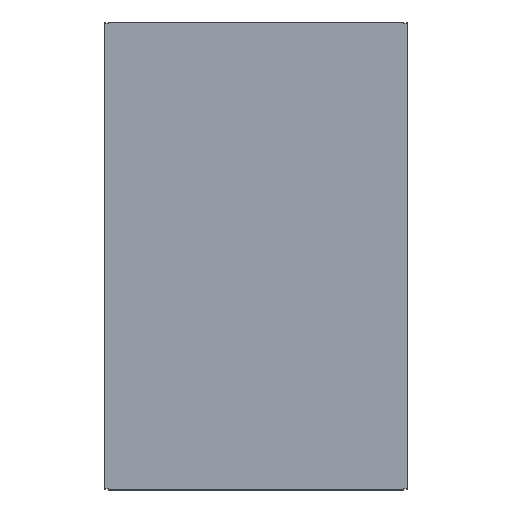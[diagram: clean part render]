
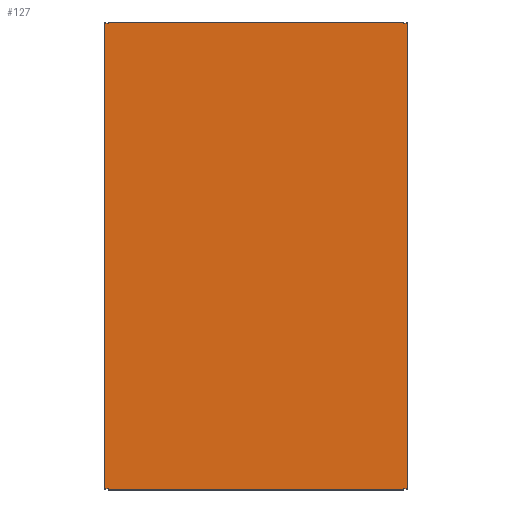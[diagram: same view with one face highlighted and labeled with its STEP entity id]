
A CAD part, top view. The second image highlights one B-rep face of the part: STEP entity #127.
In plain terms, the highlighted planar face has unit normal (0, 0, 1) as drawn and (0, 0, -1) by its records, which use the part's own axes.
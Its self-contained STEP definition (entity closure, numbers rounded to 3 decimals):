
#127 = ADVANCED_FACE( '', ( #261 ), #262, .F. );
#261 = FACE_OUTER_BOUND( '', #401, .T. );
#262 = PLANE( '', #402 );
#401 = EDGE_LOOP( '', ( #652, #653, #654, #655, #656, #657, #658, #659, #660, #661, #662, #663 ) );
#402 = AXIS2_PLACEMENT_3D( '', #664, #665, #666 );
#652 = ORIENTED_EDGE( '', *, *, #962, .T. );
#653 = ORIENTED_EDGE( '', *, *, #984, .F. );
#654 = ORIENTED_EDGE( '', *, *, #985, .T. );
#655 = ORIENTED_EDGE( '', *, *, #956, .T. );
#656 = ORIENTED_EDGE( '', *, *, #970, .T. );
#657 = ORIENTED_EDGE( '', *, *, #986, .F. );
#658 = ORIENTED_EDGE( '', *, *, #987, .T. );
#659 = ORIENTED_EDGE( '', *, *, #988, .T. );
#660 = ORIENTED_EDGE( '', *, *, #989, .F. );
#661 = ORIENTED_EDGE( '', *, *, #990, .F. );
#662 = ORIENTED_EDGE( '', *, *, #901, .T. );
#663 = ORIENTED_EDGE( '', *, *, #933, .T. );
#664 = CARTESIAN_POINT( '', ( 547., 847., 0. ) );
#665 = DIRECTION( '', ( 0., 0., 1. ) );
#666 = DIRECTION( '', ( 1., 0., 0. ) );
#901 = EDGE_CURVE( '', #1079, #1080, #1081, .T. );
#933 = EDGE_CURVE( '', #1080, #1132, #1135, .T. );
#956 = EDGE_CURVE( '', #1171, #1169, #1172, .T. );
#962 = EDGE_CURVE( '', #1132, #1179, #1181, .T. );
#970 = EDGE_CURVE( '', #1169, #1192, #1194, .T. );
#984 = EDGE_CURVE( '', #1214, #1179, #1215, .T. );
#985 = EDGE_CURVE( '', #1214, #1171, #1216, .T. );
#986 = EDGE_CURVE( '', #1217, #1192, #1218, .T. );
#987 = EDGE_CURVE( '', #1217, #1219, #1220, .T. );
#988 = EDGE_CURVE( '', #1219, #1221, #1222, .T. );
#989 = EDGE_CURVE( '', #1223, #1221, #1224, .T. );
#990 = EDGE_CURVE( '', #1079, #1223, #1225, .T. );
#1079 = VERTEX_POINT( '', #1337 );
#1080 = VERTEX_POINT( '', #1338 );
#1081 = LINE( '', #1339, #1340 );
#1132 = VERTEX_POINT( '', #1415 );
#1135 = LINE( '', #1419, #1420 );
#1169 = VERTEX_POINT( '', #1471 );
#1171 = VERTEX_POINT( '', #1474 );
#1172 = LINE( '', #1475, #1476 );
#1179 = VERTEX_POINT( '', #1486 );
#1181 = LINE( '', #1489, #1490 );
#1192 = VERTEX_POINT( '', #1506 );
#1194 = LINE( '', #1509, #1510 );
#1214 = VERTEX_POINT( '', #1540 );
#1215 = LINE( '', #1541, #1542 );
#1216 = LINE( '', #1543, #1544 );
#1217 = VERTEX_POINT( '', #1545 );
#1218 = LINE( '', #1546, #1547 );
#1219 = VERTEX_POINT( '', #1548 );
#1220 = LINE( '', #1549, #1550 );
#1221 = VERTEX_POINT( '', #1551 );
#1222 = LINE( '', #1552, #1553 );
#1223 = VERTEX_POINT( '', #1554 );
#1224 = LINE( '', #1555, #1556 );
#1225 = LINE( '', #1557, #1558 );
#1337 = CARTESIAN_POINT( '', ( 535., 843., 0. ) );
#1338 = CARTESIAN_POINT( '', ( 547., 843., 0. ) );
#1339 = CARTESIAN_POINT( '', ( 547., 843., 0. ) );
#1340 = VECTOR( '', #1662, 1000. );
#1415 = CARTESIAN_POINT( '', ( 547., -843., 0. ) );
#1419 = CARTESIAN_POINT( '', ( 547., 847., 0. ) );
#1420 = VECTOR( '', #1688, 1000. );
#1471 = CARTESIAN_POINT( '', ( -535., -843., 0. ) );
#1474 = CARTESIAN_POINT( '', ( -535., -847., 0. ) );
#1475 = CARTESIAN_POINT( '', ( -535., -847., 0. ) );
#1476 = VECTOR( '', #1707, 1000. );
#1486 = CARTESIAN_POINT( '', ( 535., -843., 0. ) );
#1489 = CARTESIAN_POINT( '', ( 547., -843., 0. ) );
#1490 = VECTOR( '', #1712, 1000. );
#1506 = CARTESIAN_POINT( '', ( -547., -843., 0. ) );
#1509 = CARTESIAN_POINT( '', ( 547., -843., 0. ) );
#1510 = VECTOR( '', #1719, 1000. );
#1540 = CARTESIAN_POINT( '', ( 535., -847., 0. ) );
#1541 = CARTESIAN_POINT( '', ( 535., -847., 0. ) );
#1542 = VECTOR( '', #1730, 1000. );
#1543 = CARTESIAN_POINT( '', ( 535., -847., 0. ) );
#1544 = VECTOR( '', #1731, 1000. );
#1545 = CARTESIAN_POINT( '', ( -547., 843., 0. ) );
#1546 = CARTESIAN_POINT( '', ( -547., 847., 0. ) );
#1547 = VECTOR( '', #1732, 1000. );
#1548 = CARTESIAN_POINT( '', ( -535., 843., 0. ) );
#1549 = CARTESIAN_POINT( '', ( 547., 843., 0. ) );
#1550 = VECTOR( '', #1733, 1000. );
#1551 = CARTESIAN_POINT( '', ( -535., 847., 0. ) );
#1552 = CARTESIAN_POINT( '', ( -535., -847., 0. ) );
#1553 = VECTOR( '', #1734, 1000. );
#1554 = CARTESIAN_POINT( '', ( 535., 847., 0. ) );
#1555 = CARTESIAN_POINT( '', ( 535., 847., 0. ) );
#1556 = VECTOR( '', #1735, 1000. );
#1557 = CARTESIAN_POINT( '', ( 535., -847., 0. ) );
#1558 = VECTOR( '', #1736, 1000. );
#1662 = DIRECTION( '', ( 1., 0., 0. ) );
#1688 = DIRECTION( '', ( 0., -1., 0. ) );
#1707 = DIRECTION( '', ( 0., 1., 0. ) );
#1712 = DIRECTION( '', ( -1., 0., 0. ) );
#1719 = DIRECTION( '', ( -1., 0., 0. ) );
#1730 = DIRECTION( '', ( 0., 1., 0. ) );
#1731 = DIRECTION( '', ( -1., 0., 0. ) );
#1732 = DIRECTION( '', ( 0., -1., 0. ) );
#1733 = DIRECTION( '', ( 1., 0., 0. ) );
#1734 = DIRECTION( '', ( 0., 1., 0. ) );
#1735 = DIRECTION( '', ( -1., 0., 0. ) );
#1736 = DIRECTION( '', ( 0., 1., 0. ) );
